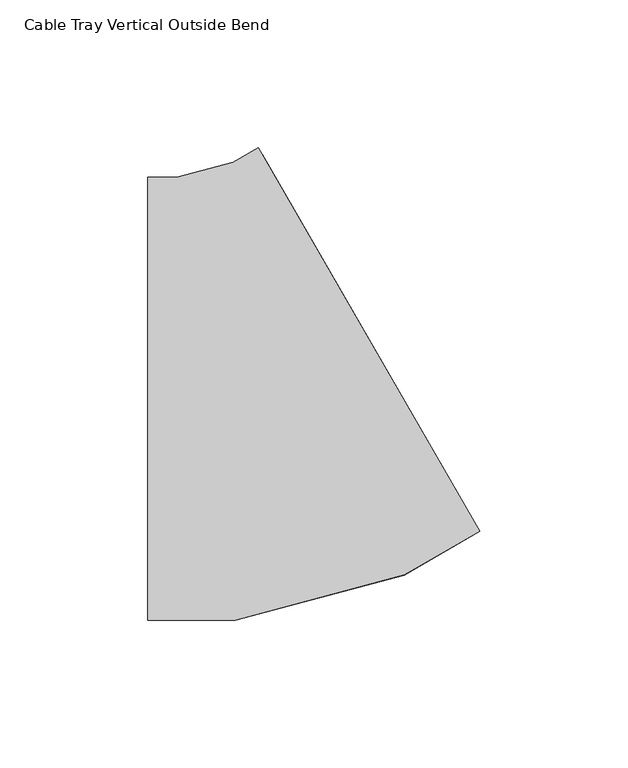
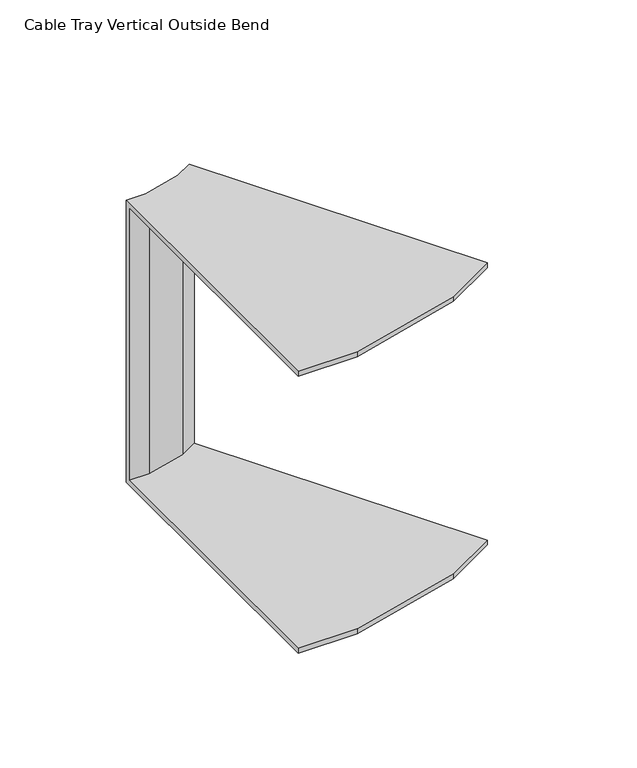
"""IFC4 building model written with IfcOpenShell, lengths in millimetres: cable carrier fitting geometry, Cable Tray Vertical Outside Bend : ELEC_ELV_TKG_N2402."""

import ifcopenshell
import ifcopenshell.guid

model = None  # the IFC model being written
_history = None  # IfcOwnerHistory: only IFC2X3 demands one
_inside = {}  # id of a spatial element -> (the spatial element, [elements in it])
_under = {}  # id of a project, library or spatial element -> (it, [spatial elements below it])
_declared = {}  # id of a project -> (the project, [libraries it declares])
_typed = {}  # id of a type object -> (the type object, [elements of that type])
_made_of = {}  # id of a material, layer set ... -> (it, [elements and type objects made of it])


def new_model(schema):
    """Start an empty IFC model of exactly this schema.

    Asked for "IFC4X3", IfcOpenShell would pick the latest addendum, in which some entities
    have other attributes; the version numbers below select the first issue.
    IFC2X3 requires an IfcOwnerHistory on every rooted entity: one is made here for all.
    """
    global model, _history
    if schema == "IFC4X3":
        model = ifcopenshell.file(schema_version=(4, 3, 0, 0))
    else:
        model = ifcopenshell.file(schema=schema)
    _inside.clear()
    _under.clear()
    _declared.clear()
    _typed.clear()
    _made_of.clear()
    _history = None
    if model.schema == "IFC2X3":
        org = make("IfcOrganization", Name="unknown")
        user = make(
            "IfcPersonAndOrganization",
            ThePerson=make("IfcPerson", FamilyName="unknown"),
            TheOrganization=org,
        )
        app = make(
            "IfcApplication",
            ApplicationDeveloper=org,
            Version="unknown",
            ApplicationFullName="unknown",
            ApplicationIdentifier="unknown",
        )
        _history = make(
            "IfcOwnerHistory",
            OwningUser=user,
            OwningApplication=app,
            ChangeAction="ADDED",
            CreationDate=0,
        )
    return model


def make(cls, **values):
    """One entity of the class cls with the attributes given. An attribute that is None is left unset."""
    return model.create_entity(
        cls, **{name: value for name, value in values.items() if value is not None}
    )


def rooted(cls, **values):
    """An entity with a GlobalId (a new one), such as an element, a storey or a relation."""
    return make(cls, GlobalId=ifcopenshell.guid.new(), OwnerHistory=_history, **values)


def si_unit(unit_type, name, prefix=None):
    """IfcSIUnit, for example si_unit("LENGTHUNIT", "METRE", prefix="MILLI")."""
    return make("IfcSIUnit", UnitType=unit_type, Prefix=prefix, Name=name)


def assignment(units):
    """IfcUnitAssignment: the units of a project."""
    return None if units is None else make("IfcUnitAssignment", Units=units)


def point(xyz):
    """IfcCartesianPoint."""
    return None if xyz is None else make("IfcCartesianPoint", Coordinates=xyz)


def direction(xyz):
    """IfcDirection."""
    return None if xyz is None else make("IfcDirection", DirectionRatios=xyz)


def frame(location, z_axis=None, x_axis=None):
    """IfcAxis2Placement3D, a coordinate frame: its origin and axes. An axis left out is left unset."""
    return make(
        "IfcAxis2Placement3D",
        Location=point(location),
        Axis=direction(z_axis),
        RefDirection=direction(x_axis),
    )


def origin():
    """The frame at (0, 0, 0) with its axes left unset."""
    return frame((0.0, 0.0, 0.0))


def place(relative_to, where):
    """IfcLocalPlacement: puts the frame where relative to a parent placement (None: the world)."""
    return make(
        "IfcLocalPlacement", PlacementRelTo=relative_to, RelativePlacement=where
    )


def context(
    kind, dimensions, precision=None, world=None, true_north=None, identifier=None
):
    """IfcGeometricRepresentationContext, for example the 3D "Model" context."""
    return make(
        "IfcGeometricRepresentationContext",
        ContextIdentifier=identifier,
        ContextType=kind,
        CoordinateSpaceDimension=dimensions,
        Precision=precision,
        WorldCoordinateSystem=world,
        TrueNorth=true_north,
    )


def project(units=None, contexts=None):
    """IfcProject with its units and contexts."""
    return rooted(
        "IfcProject",
        Name="project",
        RepresentationContexts=contexts,
        UnitsInContext=assignment(units),
    )


def spatial(cls, under=None, at=None, **own):
    """A site, building, storey or space (cls), placed at a placement, below another one or the project."""
    s = rooted(cls, ObjectPlacement=at, **own)
    if under is not None:
        _under.setdefault(under.id(), (under, []))[1].append(s)
    return s


def faces_of(points, faces, orient=None, outer=None):
    """IfcFace entities. A face is a list of loops; a loop is a list of indices into points, from 0.

    orient and outer hold one flag for each loop. By default every Orientation is true, the
    first loop of a face is its IfcFaceOuterBound and the others are IfcFaceBound.
    """
    made = []
    for i, loops in enumerate(faces):
        bounds = []
        for j, loop in enumerate(loops):
            is_outer = j == 0 if outer is None else outer[i][j]
            bounds.append(
                make(
                    "IfcFaceOuterBound" if is_outer else "IfcFaceBound",
                    Bound=make("IfcPolyLoop", Polygon=[points[k] for k in loop]),
                    Orientation=True if orient is None else orient[i][j],
                )
            )
        made.append(make("IfcFace", Bounds=bounds))
    return made


def faceted_brep(points, faces, orient=None, outer=None, voids=None):
    """IfcFacetedBrep: a solid bounded by flat faces; with voids (closed shells), ...WithVoids."""
    shared = [point(p) for p in points]
    hull = make("IfcClosedShell", CfsFaces=faces_of(shared, faces, orient, outer))
    if voids is None:
        return make("IfcFacetedBrep", Outer=hull)
    return make(
        "IfcFacetedBrepWithVoids",
        Outer=hull,
        Voids=[
            make(cls, CfsFaces=faces_of(shared, fs, o, b)) for cls, fs, o, b in voids
        ],
    )


def shape(context_of_items, identifier, shape_type, items):
    """IfcShapeRepresentation: the items that make up one representation, for example the "Body"."""
    return make(
        "IfcShapeRepresentation",
        ContextOfItems=context_of_items,
        RepresentationIdentifier=identifier,
        RepresentationType=shape_type,
        Items=items,
    )


def source(mapping_origin, context_of_items, identifier, shape_type, items):
    """IfcRepresentationMap: a shape defined once, which mapped items show again and again."""
    return make(
        "IfcRepresentationMap",
        MappingOrigin=mapping_origin,
        MappedRepresentation=shape(context_of_items, identifier, shape_type, items),
    )


def transform(
    local_origin,
    x_axis=None,
    y_axis=None,
    z_axis=None,
    scale=None,
    scale2=None,
    scale3=None,
    uniform=True,
):
    """IfcCartesianTransformationOperator3D, or its non-uniform kind. x_axis, y_axis, z_axis: its Axis1, 2, 3."""
    if uniform:
        return make(
            "IfcCartesianTransformationOperator3D",
            Axis1=direction(x_axis),
            Axis2=direction(y_axis),
            LocalOrigin=point(local_origin),
            Scale=scale,
            Axis3=direction(z_axis),
        )
    return make(
        "IfcCartesianTransformationOperator3DnonUniform",
        Axis1=direction(x_axis),
        Axis2=direction(y_axis),
        LocalOrigin=point(local_origin),
        Scale=scale,
        Axis3=direction(z_axis),
        Scale2=scale2,
        Scale3=scale3,
    )


def mapped(mapping_source, mapping_target):
    """IfcMappedItem: shows the shape of a source again, moved by a transform."""
    return make(
        "IfcMappedItem", MappingSource=mapping_source, MappingTarget=mapping_target
    )


def made_of(thing, what):
    """Note that an element or type object is made of a material, layer set ...; save() writes the relation."""
    if what is not None:
        _made_of.setdefault(what.id(), (what, []))[1].append(thing)
    return thing


def element(
    cls,
    number,
    at=None,
    inside=None,
    cuts=None,
    type_object=None,
    material=None,
    context=None,
    identifier="Body",
    shape_type=None,
    held_by="IfcProductDefinitionShape",
    body=None,
    shapes=None,
    **own,
):
    """One element of the class cls, such as IfcWall. Its Tag is "e" and its number.

    at: its placement. inside: the storey or other place that contains it. cuts: it is an
    opening in that element (IfcRelVoidsElement). A single representation is given by context,
    identifier, shape_type and body (its items); several are given by shapes. held_by: the class
    of the entity that holds the representations. save() writes the other relations.
    """
    e = rooted(cls, Tag="e%d" % number, ObjectPlacement=at, **own)
    if body is not None:
        shapes = [shape(context, identifier, shape_type, body)]
    if shapes is not None:
        e.Representation = make(held_by, Representations=shapes)
    if inside is not None:
        _inside.setdefault(inside.id(), (inside, []))[1].append(e)
    if cuts is not None:
        rooted(
            "IfcRelVoidsElement", RelatingBuildingElement=cuts, RelatedOpeningElement=e
        )
    if type_object is not None:
        _typed.setdefault(type_object.id(), (type_object, []))[1].append(e)
    return made_of(e, material)


def aggregate(whole, parts):
    """IfcRelAggregates: a whole, such as a stair, and the parts it consists of."""
    return rooted("IfcRelAggregates", RelatingObject=whole, RelatedObjects=parts)


def save(model, path):
    """Write the relations noted so far, then the file.

    IfcRelAggregates (storeys below a building ...), IfcRelContainedInSpatialStructure (elements
    in a storey), IfcRelDefinesByType, IfcRelAssociatesMaterial and IfcRelDeclares: one each for
    every whole, place, type object, material and project.
    """
    for whole, parts in _under.values():
        aggregate(whole, parts)
    for where, things in _inside.values():
        rooted(
            "IfcRelContainedInSpatialStructure",
            RelatedElements=things,
            RelatingStructure=where,
        )
    for kind, things in _typed.values():
        rooted("IfcRelDefinesByType", RelatedObjects=things, RelatingType=kind)
    for what, things in _made_of.values():
        rooted("IfcRelAssociatesMaterial", RelatedObjects=things, RelatingMaterial=what)
    for by, libraries in _declared.values():
        rooted("IfcRelDeclares", RelatingContext=by, RelatedDefinitions=libraries)
    model.write(path)


def cable_tray_vertical_outside_bend_4bfe5093(model_context):
    return source(origin(), model_context, "Body", "Brep", [
        faceted_brep([(-40.1923789, -75.0, 75.0), (-40.1923789, 75.0, 75.0), (-40.1923789, 75.0, -75.0), (-40.1923789, -75.0, -75.0), (-40.1923789, -75.0, -72.46), (-40.1923789, 72.46, -72.46), (-40.1923789, 72.46, 72.46), (-40.1923789, -75.0, 72.46), (72.3076211, -44.8557159, 75.0), (72.3076211, -44.8557159, 72.46), (-1.4223789, 82.8483902, 72.46), (-1.4223789, 82.8483902, -72.46), (72.3076211, -44.8557159, -72.46), (72.3076211, -44.8557159, -75.0), (-2.6923789, 85.0480947, -75.0), (-2.6923789, 85.0480947, 75.0), (-10.5705669, -75.0, 75.0), (46.6543795, -59.6666218, 75.0), (-11.2434594, 80.1111261, 75.0), (-30.3184415, 75.0, 75.0), (-30.3184415, 75.0, -75.0), (-11.2434594, 80.1111261, -75.0), (46.6543795, -59.6666218, -75.0), (-10.5705669, -75.0, -75.0), (-10.5705669, -75.0, -72.46), (46.6543795, -59.6666218, -72.46), (-10.263056, 77.7442229, -72.46), (-29.9840442, 72.46, -72.46), (-29.9840442, 72.46, 72.46), (-10.263056, 77.7442229, 72.46), (46.6543795, -59.6666218, 72.46), (-10.5705669, -75.0, 72.46)], [[[0, 1, 2, 3, 4, 5, 6, 7]], [[8, 9, 10, 11, 12, 13, 14, 15]], [[1, 0, 16, 17, 8, 15, 18, 19]], [[2, 1, 19, 20]], [[3, 2, 20, 21, 14, 13, 22, 23]], [[4, 3, 23, 24]], [[5, 4, 24, 25, 12, 11, 26, 27]], [[6, 5, 27, 28]], [[7, 6, 28, 29, 10, 9, 30, 31]], [[0, 7, 31, 16]], [[20, 19, 18, 21]], [[24, 23, 22, 25]], [[28, 27, 26, 29]], [[16, 31, 30, 17]], [[21, 18, 15, 14]], [[25, 22, 13, 12]], [[29, 26, 11, 10]], [[17, 30, 9, 8]]]),
    ])


if __name__ == "__main__":
    model = new_model("IFC4")
    model_context = context("Model", 3, world=origin())
    ifc_project = project(units=[si_unit("LENGTHUNIT", "METRE", prefix="MILLI")], contexts=[model_context])
    site = spatial("IfcSite", under=ifc_project)
    building = spatial("IfcBuilding", under=site)
    placement = place(None, origin())
    cable_tray_vertical_outside_bend_shape = cable_tray_vertical_outside_bend_4bfe5093(model_context)
    element("IfcCableCarrierFitting", 1, ObjectType="Cable Tray Vertical Outside Bend : ELEC_ELV_TKG_N2402", at=placement, inside=building, context=model_context, shape_type="MappedRepresentation", body=[
        mapped(cable_tray_vertical_outside_bend_shape, transform((0.0, 0.0, 0.0), x_axis=(1.0, 0.0, 0.0), y_axis=(0.0, 1.0, 0.0), z_axis=(0.0, 0.0, 1.0))),
    ])
    save(model, "model.ifc")
